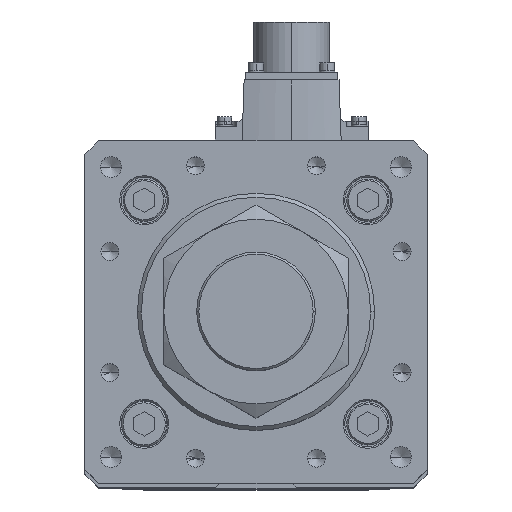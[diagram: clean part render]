
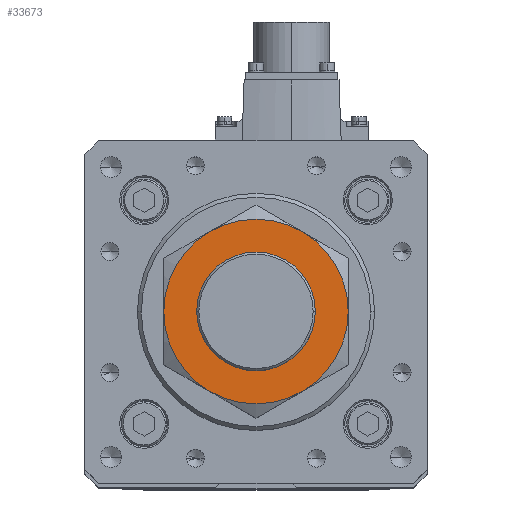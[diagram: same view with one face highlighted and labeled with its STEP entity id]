
A CAD part, top view. The second image highlights one B-rep face of the part: STEP entity #33673.
In plain terms, the highlighted planar face has unit normal (0, 0, 1).
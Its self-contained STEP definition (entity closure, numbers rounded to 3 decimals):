
#789 = PLANE ( 'NONE',  #8442 ) ;
#794 = CIRCLE ( 'NONE', #12015, 35. ) ;
#1310 = EDGE_LOOP ( 'NONE', ( #7814, #15750 ) ) ;
#1576 = ORIENTED_EDGE ( 'NONE', *, *, #17028, .F. ) ;
#2149 = DIRECTION ( 'NONE',  ( -1., 0., 0. ) ) ;
#2426 = EDGE_CURVE ( 'NONE', #3083, #17905, #6804, .T. ) ;
#2472 = ORIENTED_EDGE ( 'NONE', *, *, #32591, .F. ) ;
#2908 = CARTESIAN_POINT ( 'NONE',  ( 0., 0., 27. ) ) ;
#2917 = AXIS2_PLACEMENT_3D ( 'NONE', #17299, #37927, #20258 ) ;
#2999 = CARTESIAN_POINT ( 'NONE',  ( 0., 0., 27. ) ) ;
#3083 = VERTEX_POINT ( 'NONE', #35134 ) ;
#3183 = VERTEX_POINT ( 'NONE', #35917 ) ;
#3394 = AXIS2_PLACEMENT_3D ( 'NONE', #37895, #23284, #2149 ) ;
#3427 = CARTESIAN_POINT ( 'NONE',  ( 0., 0., 27. ) ) ;
#3485 = CARTESIAN_POINT ( 'NONE',  ( 17.5, -30.311, 27. ) ) ;
#3622 = DIRECTION ( 'NONE',  ( 0., 0., 1. ) ) ;
#3826 = CARTESIAN_POINT ( 'NONE',  ( 0., 0., 27. ) ) ;
#3830 = VERTEX_POINT ( 'NONE', #10110 ) ;
#4170 = CIRCLE ( 'NONE', #33357, 35. ) ;
#4738 = DIRECTION ( 'NONE',  ( -1., 0., 0. ) ) ;
#6267 = DIRECTION ( 'NONE',  ( 0., 0., -1. ) ) ;
#6411 = DIRECTION ( 'NONE',  ( -1., 0., 0. ) ) ;
#6804 = CIRCLE ( 'NONE', #3394, 35. ) ;
#7168 = CARTESIAN_POINT ( 'NONE',  ( 0., 0., 27. ) ) ;
#7814 = ORIENTED_EDGE ( 'NONE', *, *, #30908, .F. ) ;
#8442 = AXIS2_PLACEMENT_3D ( 'NONE', #18590, #3622, #18466 ) ;
#9040 = DIRECTION ( 'NONE',  ( 0., 0., 1. ) ) ;
#9623 = CARTESIAN_POINT ( 'NONE',  ( -17.5, 30.311, 27. ) ) ;
#9735 = FACE_BOUND ( 'NONE', #1310, .T. ) ;
#9893 = DIRECTION ( 'NONE',  ( 0., 0., -1. ) ) ;
#10110 = CARTESIAN_POINT ( 'NONE',  ( -22.5, 0., 27. ) ) ;
#11002 = AXIS2_PLACEMENT_3D ( 'NONE', #2999, #9040, #20798 ) ;
#12015 = AXIS2_PLACEMENT_3D ( 'NONE', #7168, #27787, #26214 ) ;
#12023 = CARTESIAN_POINT ( 'NONE',  ( -35., 0., 27. ) ) ;
#12084 = EDGE_CURVE ( 'NONE', #32398, #3830, #24272, .T. ) ;
#15750 = ORIENTED_EDGE ( 'NONE', *, *, #12084, .F. ) ;
#16488 = CARTESIAN_POINT ( 'NONE',  ( 35., 0., 27. ) ) ;
#17028 = EDGE_CURVE ( 'NONE', #31205, #24691, #29355, .T. ) ;
#17299 = CARTESIAN_POINT ( 'NONE',  ( 0., 0., 27. ) ) ;
#17905 = VERTEX_POINT ( 'NONE', #12023 ) ;
#18030 = VERTEX_POINT ( 'NONE', #9623 ) ;
#18466 = DIRECTION ( 'NONE',  ( 1., 0., 0. ) ) ;
#18590 = CARTESIAN_POINT ( 'NONE',  ( 0., 0., 27. ) ) ;
#19333 = CIRCLE ( 'NONE', #23164, 35. ) ;
#20258 = DIRECTION ( 'NONE',  ( 1., 0., 0. ) ) ;
#20736 = EDGE_CURVE ( 'NONE', #24691, #3083, #794, .T. ) ;
#20798 = DIRECTION ( 'NONE',  ( 1., 0., 0. ) ) ;
#22009 = AXIS2_PLACEMENT_3D ( 'NONE', #36338, #31297, #4738 ) ;
#22903 = ORIENTED_EDGE ( 'NONE', *, *, #20736, .F. ) ;
#22986 = EDGE_CURVE ( 'NONE', #17905, #18030, #19333, .T. ) ;
#23164 = AXIS2_PLACEMENT_3D ( 'NONE', #3427, #24029, #6411 ) ;
#23284 = DIRECTION ( 'NONE',  ( 0., 0., -1. ) ) ;
#23769 = DIRECTION ( 'NONE',  ( -1., 0., 0. ) ) ;
#23933 = ORIENTED_EDGE ( 'NONE', *, *, #22986, .F. ) ;
#24029 = DIRECTION ( 'NONE',  ( 0., 0., -1. ) ) ;
#24272 = CIRCLE ( 'NONE', #11002, 22.5 ) ;
#24431 = DIRECTION ( 'NONE',  ( -1., 0., 0. ) ) ;
#24559 = CIRCLE ( 'NONE', #2917, 22.5 ) ;
#24691 = VERTEX_POINT ( 'NONE', #3485 ) ;
#25450 = EDGE_CURVE ( 'NONE', #18030, #3183, #32852, .T. ) ;
#26214 = DIRECTION ( 'NONE',  ( -1., 0., 0. ) ) ;
#26898 = ORIENTED_EDGE ( 'NONE', *, *, #25450, .F. ) ;
#27787 = DIRECTION ( 'NONE',  ( 0., 0., -1. ) ) ;
#28253 = EDGE_LOOP ( 'NONE', ( #1576, #2472, #26898, #23933, #31310, #22903 ) ) ;
#29355 = CIRCLE ( 'NONE', #22009, 35. ) ;
#30908 = EDGE_CURVE ( 'NONE', #3830, #32398, #24559, .T. ) ;
#31205 = VERTEX_POINT ( 'NONE', #16488 ) ;
#31297 = DIRECTION ( 'NONE',  ( 0., 0., -1. ) ) ;
#31310 = ORIENTED_EDGE ( 'NONE', *, *, #2426, .F. ) ;
#32398 = VERTEX_POINT ( 'NONE', #37785 ) ;
#32591 = EDGE_CURVE ( 'NONE', #3183, #31205, #4170, .T. ) ;
#32852 = CIRCLE ( 'NONE', #32901, 35. ) ;
#32901 = AXIS2_PLACEMENT_3D ( 'NONE', #2908, #6267, #23769 ) ;
#33357 = AXIS2_PLACEMENT_3D ( 'NONE', #3826, #9893, #24431 ) ;
#33673 = ADVANCED_FACE ( 'NONE', ( #34184, #9735 ), #789, .T. ) ;
#34184 = FACE_OUTER_BOUND ( 'NONE', #28253, .T. ) ;
#35134 = CARTESIAN_POINT ( 'NONE',  ( -17.5, -30.311, 27. ) ) ;
#35917 = CARTESIAN_POINT ( 'NONE',  ( 17.5, 30.311, 27. ) ) ;
#36338 = CARTESIAN_POINT ( 'NONE',  ( 0., 0., 27. ) ) ;
#37785 = CARTESIAN_POINT ( 'NONE',  ( 22.5, 0., 27. ) ) ;
#37895 = CARTESIAN_POINT ( 'NONE',  ( 0., 0., 27. ) ) ;
#37927 = DIRECTION ( 'NONE',  ( 0., 0., 1. ) ) ;
